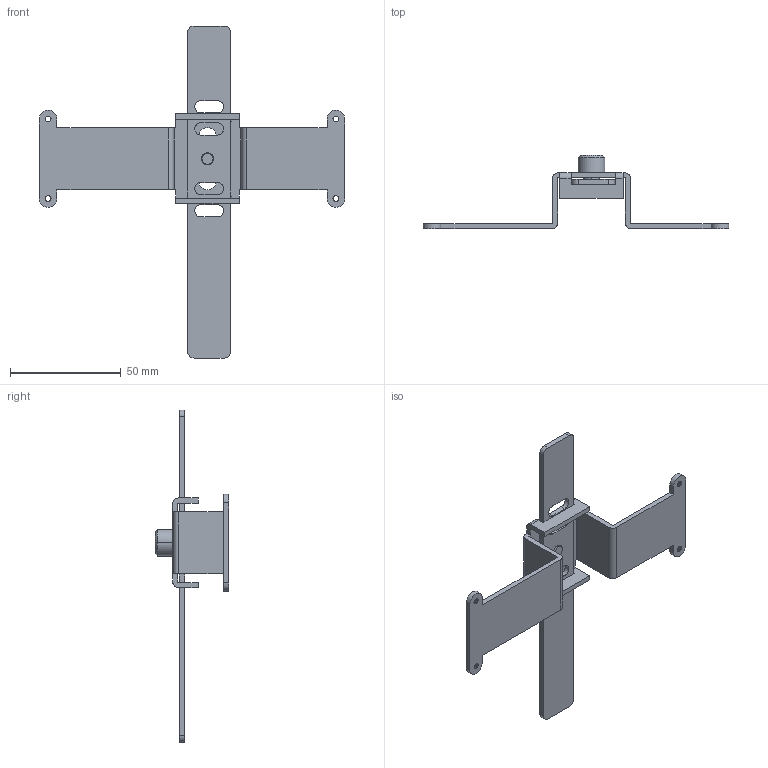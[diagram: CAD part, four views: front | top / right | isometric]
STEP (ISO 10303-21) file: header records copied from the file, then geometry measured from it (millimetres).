
FILE_DESCRIPTION(/* description */ (''),/* implementation_level */ '2;1');
FILE_NAME(/* name */ 'MIF12GM_4P RSTN_3D DATA.stp',/* time_stamp */ '2018-01-10T09:33:33+09:00',/* author */ (''),/* organization */ (''),/* preprocessor_version */ 'ST-DEVELOPER v15',/* originating_system */ 'SIEMENS PLM Software NX 9.0',/* authorisation */ '');
FILE_SCHEMA (('AP203_CONFIGURATION_CONTROLLED_3D_DESIGN_OF_MECHANICAL_PARTS_AND_ASSEMBLIES_MIM_LF { 1 0 10303 403 2 1 2}'));
Length unit declared in the file: millimetre
Products named in the file (5): GC2-PG-8007_R00; GC1-OT-8035_R00; 4ME-08569-1_R00; GC2-PG-8005_R00; GC2-AS-8025_R00
Assembly tree (4 placements, depth 2):
  GC2-AS-8025_R00
    GC2-PG-8005_R00
    4ME-08569-1_R00
    GC1-OT-8035_R00
    GC2-PG-8007_R00
Bounding box: 138 x 33.3 x 150 mm (x, y, z)
Volume: 20201.8 mm3; surface area: 20818.9 mm2
Topology: 4 solids, 4 shells, 132 faces, 364 edges, 238 vertices
Faces by surface type: plane 64, cylinder 58, cone 10
Full cylindrical faces by diameter (mm): 5.5 x4
Entity records: 4782 total; most frequent: DIRECTION 756, CARTESIAN_POINT 735, ORIENTED_EDGE 720, EDGE_CURVE 360, AXIS2_PLACEMENT_3D 259, VERTEX_POINT 238, LINE 238, VECTOR 238
